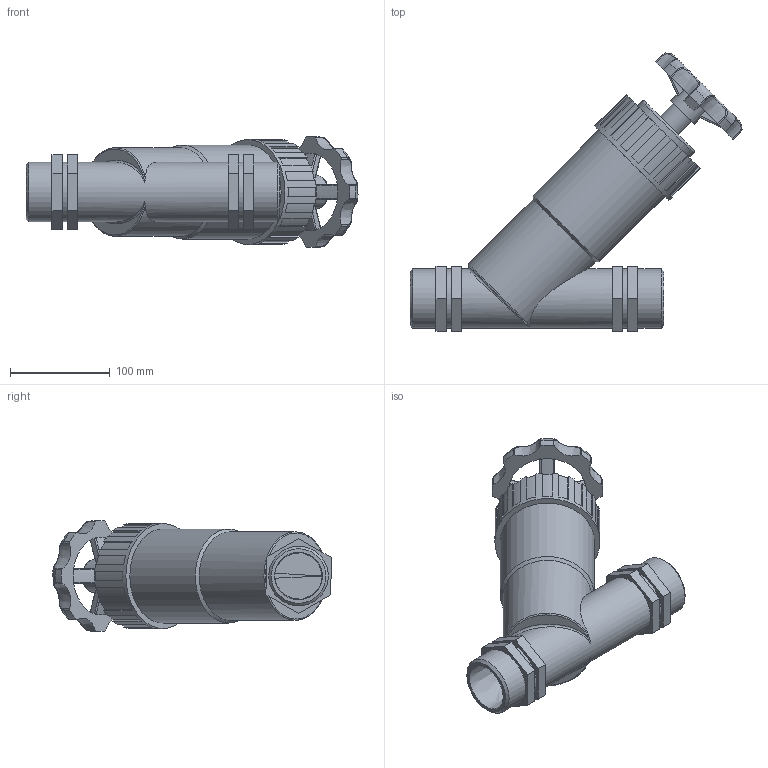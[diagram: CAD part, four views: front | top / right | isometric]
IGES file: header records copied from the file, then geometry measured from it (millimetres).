
Global section: file name: 03047220_030472200A_03049220.ipt; native system: Autodesk Inventor 2015; preprocessor: unknown; author: KIM; date: 20170619.121302; units: millimetre
Bounding box: 332.19 x 278.32 x 110.66 mm (x, y, z)
Volume: 1870290.8 mm3; surface area: 192514.2 mm2
Topology: 1 solids, 2 shells, 225 faces, 606 edges, 392 vertices
Faces by surface type: plane 111, cylinder 56, bspline 28, revolution 23, cone 7
Full cylindrical faces by diameter (mm): 26.568 x1, 33.21 x1, 59.614 x5, 73.062 x1, 88.56 x1, 94.095 x1, 105.165 x1
